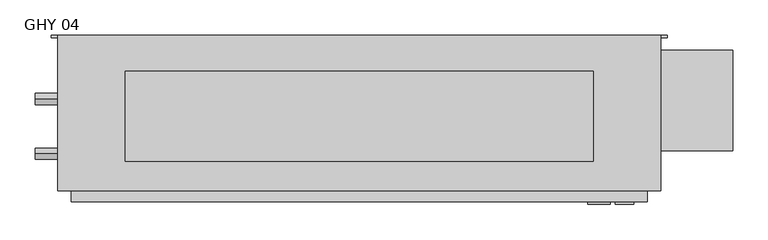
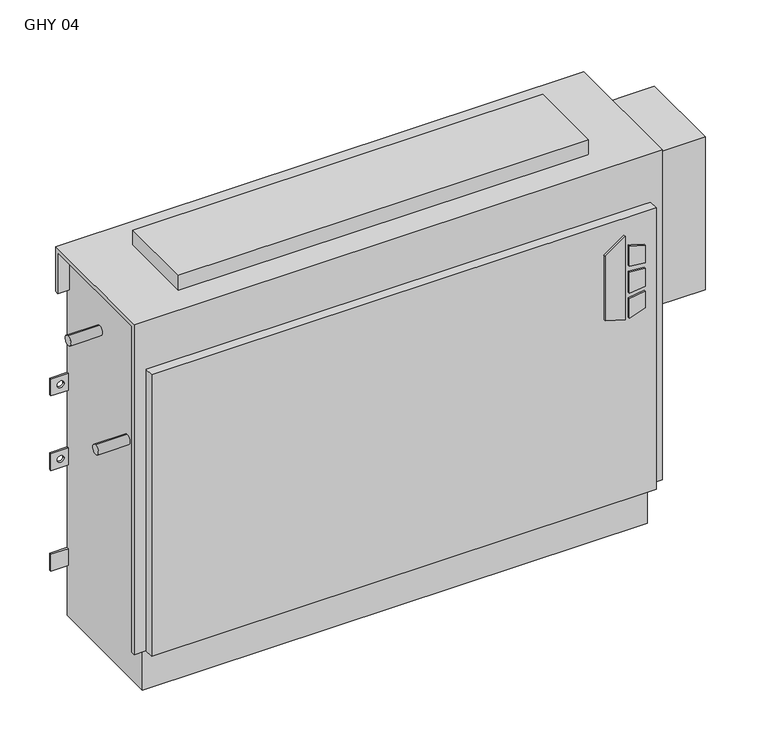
"""IFC4 building model written with IfcOpenShell, lengths in millimetres: proxy geometry, Vertical_Fan_Coil_Unit_-_GHY_-_IEC_-_2-Pipe_TS-FR_LH_2022 : GHY 04."""

from ifc_helpers import new_model, si_unit, point, frame, frame_2d, origin, place, context, project, spatial, polyline, circle_curve, trimmed, segment, composite_curve, outline, extrude, source, transform, mapped, element, save
from ifc_brep_helpers import plane_surface, revolved_surface, advanced_brep


def ghy_04_74227bf3(model_context):
    return source(origin(), model_context, "Body", "SolidModel", [
        extrude(outline(polyline([(391.6086829, 474.7368862), (381.6606126, 506.9102728), (523.831537, 506.9102728), (500.8095309, 474.7368862), (391.6086829, 474.7368862)])), frame((0.0, 6.35, 0.0), z_axis=(0.0, 1.0, 0.0), x_axis=(0.0, 0.0, 1.0)), (0.0, 0.0, 1.0), 3.175),
        extrude(outline(polyline([(470.6079683, 513.6686058), (467.4055757, 539.75), (496.6344168, 539.75), (504.6988318, 513.6686058), (470.6079683, 513.6686058)])), frame((0.0, 6.35, 0.0), z_axis=(0.0, 1.0, 0.0), x_axis=(0.0, 0.0, 1.0)), (0.0, 0.0, 1.0), 3.175),
        extrude(outline(polyline([(418.7444414, 539.75), (415.0789404, 513.6686058), (381.6606126, 513.6686058), (390.2948498, 539.75), (418.7444414, 539.75)])), frame((0.0, 6.35, 0.0), z_axis=(0.0, 1.0, 0.0), x_axis=(0.0, 0.0, 1.0)), (0.0, 0.0, 1.0), 3.175),
        extrude(outline(polyline([(458.0596028, 539.75), (460.3414292, 513.6686058), (424.4038806, 513.6686058), (427.1451456, 539.75), (458.0596028, 539.75)])), frame((0.0, 6.35, 0.0), z_axis=(0.0, 1.0, 0.0), x_axis=(0.0, 0.0, 1.0)), (0.0, 0.0, 1.0), 3.175),
        extrude(outline(polyline([(482.6, 193.675), (482.6, 66.675), (-177.8, 66.675), (-177.8, 193.675), (482.6, 193.675)])), frame((0.0, 0.0, 635.0), z_axis=(0.0, 0.0, 1.0), x_axis=(1.0, 0.0, 0.0)), (0.0, 0.0, 1.0), 25.4),
        extrude(outline(composite_curve([segment(trimmed(circle_curve(frame_2d((77.597, 401.574)), 7.9375), [point((77.597, 409.5115))], [point((77.597, 393.6365))], False, "CARTESIAN"), True, "CONTINUOUS"), segment(trimmed(circle_curve(frame_2d((77.597, 401.574)), 7.9375), [point((77.597, 393.6365))], [point((77.597, 409.5115))], False, "CARTESIAN"), True, "CONTINUOUS")], self_intersect=False)), frame((-304.8, 0.0, 0.0), z_axis=(1.0, 0.0, 0.0), x_axis=(0.0, 1.0, 0.0)), (0.0, 0.0, 1.0), 50.8),
        extrude(outline(composite_curve([segment(trimmed(circle_curve(frame_2d((154.559, 540.512)), 7.9375), [point((154.559, 548.4495))], [point((154.559, 532.5745))], False, "CARTESIAN"), True, "CONTINUOUS"), segment(trimmed(circle_curve(frame_2d((154.559, 540.512)), 7.9375), [point((154.559, 532.5745))], [point((154.559, 548.4495))], False, "CARTESIAN"), True, "CONTINUOUS")], self_intersect=False)), frame((-304.8, 0.0, 0.0), z_axis=(1.0, 0.0, 0.0), x_axis=(0.0, 1.0, 0.0)), (0.0, 0.0, 1.0), 50.8),
        extrude(outline(polyline([(679.45, 223.266), (679.45, 81.534), (558.8, 81.534), (558.8, 223.266), (679.45, 223.266)])), frame((0.0, 0.0, 327.025), z_axis=(0.0, 0.0, 1.0), x_axis=(1.0, 0.0, 0.0)), (0.0, 0.0, 1.0), 260.35),
        advanced_brep(
        [(577.85, 244.475, 635.0), (-273.05, 244.475, 635.0), (-273.05, 25.4, 635.0), (577.85, 25.4, 635.0), (-254.0, 244.475, 0.0), (558.8, 244.475, 0.0), (558.8, 34.925, 0.0), (-254.0, 34.925, 0.0), (577.85, 244.475, 558.8), (558.8, 244.475, 558.8), (558.8, 244.475, 414.3375), (587.375, 244.475, 414.3375), (587.375, 244.475, 385.7625), (558.8, 244.475, 385.7625), (558.8, 244.475, 287.3375), (587.375, 244.475, 287.3375), (587.375, 244.475, 258.7625), (558.8, 244.475, 258.7625), (558.8, 244.475, 141.2875), (587.375, 244.475, 141.2875), (587.375, 244.475, 112.7125), (558.8, 244.475, 112.7125), (-254.0, 244.475, 87.3125), (-282.575, 244.475, 87.3125), (-282.575, 244.475, 115.8875), (-254.0, 244.475, 115.8875), (-254.0, 244.475, 258.7625), (-282.575, 244.475, 258.7625), (-282.575, 244.475, 287.3375), (-254.0, 244.475, 287.3375), (-254.0, 244.475, 385.7625), (-282.575, 244.475, 385.7625), (-282.575, 244.475, 414.3375), (-254.0, 244.475, 414.3375), (-254.0, 244.475, 558.8), (-273.05, 244.475, 558.8), (577.0626, 244.475, 127.0), (565.9374, 244.475, 127.0), (577.0626, 244.475, 273.05), (565.9374, 244.475, 273.05), (-261.1374, 244.475, 273.05), (-272.2626, 244.475, 273.05), (577.0626, 244.475, 400.05), (565.9374, 244.475, 400.05), (-261.1374, 244.475, 400.05), (-272.2626, 244.475, 400.05), (-273.05, 238.125, 558.8), (-273.05, 238.125, 628.65), (-273.05, 31.75, 628.65), (-273.05, 31.75, 73.025), (-273.05, 25.4, 73.025), (558.8, 9.525, 552.45), (-254.0, 9.525, 552.45), (-254.0, 9.525, 73.025), (558.8, 9.525, 73.025), (577.85, 25.4, 73.025), (577.85, 31.75, 73.025), (577.85, 31.75, 628.65), (577.85, 238.125, 628.65), (577.85, 238.125, 558.8), (-254.0, 25.4, 73.025), (-254.0, 25.4, 552.45), (558.8, 25.4, 552.45), (558.8, 25.4, 73.025), (-254.0, 31.75, 73.025), (-254.0, 34.925, 73.025), (558.8, 34.925, 73.025), (558.8, 31.75, 73.025), (558.8, 241.3, 112.7125), (558.8, 241.3, 141.2875), (558.8, 241.3, 258.7625), (558.8, 241.3, 287.3375), (558.8, 241.3, 385.7625), (558.8, 241.3, 414.3375), (558.8, 238.125, 558.8), (558.8, 238.125, 628.65), (558.8, 31.75, 628.65), (-254.0, 31.75, 628.65), (-254.0, 238.125, 628.65), (-254.0, 238.125, 558.8), (-254.0, 241.3, 414.3375), (-254.0, 241.3, 385.7625), (-254.0, 241.3, 287.3375), (-254.0, 241.3, 258.7625), (-254.0, 241.3, 115.8875), (-254.0, 241.3, 87.3125), (587.375, 241.3, 112.7125), (587.375, 241.3, 141.2875), (565.9374, 241.3, 127.0), (577.0626, 241.3, 127.0), (587.375, 241.3, 258.7625), (587.375, 241.3, 287.3375), (565.9374, 241.3, 273.05), (577.0626, 241.3, 273.05), (587.375, 241.3, 385.7625), (587.375, 241.3, 414.3375), (565.9374, 241.3, 400.05), (577.0626, 241.3, 400.05), (-282.575, 241.3, 115.8875), (-282.575, 241.3, 87.3125), (-282.575, 241.3, 287.3375), (-282.575, 241.3, 258.7625), (-272.2626, 241.3, 273.05), (-261.1374, 241.3, 273.05), (-282.575, 241.3, 414.3375), (-282.575, 241.3, 385.7625), (-272.2626, 241.3, 400.05), (-261.1374, 241.3, 400.05)],
        [
            (0, 1),
            (1, 2),
            (2, 3),
            (3, 0),
            (4, 5),
            (5, 6),
            (6, 7),
            (7, 4),
            (0, 8),
            (8, 9),
            (9, 10),
            (10, 11),
            (11, 12),
            (12, 13),
            (13, 14),
            (14, 15),
            (15, 16),
            (16, 17),
            (17, 18),
            (18, 19),
            (19, 20),
            (20, 21),
            (21, 5),
            (4, 22),
            (22, 23),
            (23, 24),
            (24, 25),
            (25, 26),
            (26, 27),
            (27, 28),
            (28, 29),
            (29, 30),
            (30, 31),
            (31, 32),
            (32, 33),
            (33, 34),
            (34, 35),
            (35, 1),
            (36, 37, circle_curve(frame((571.5, 244.475, 127.0), z_axis=(0.0, -1.0, 0.0), x_axis=(-1.0, 0.0, 0.0)), 5.5626)),
            (37, 36, circle_curve(frame((571.5, 244.475, 127.0), z_axis=(0.0, -1.0, 0.0), x_axis=(-1.0, 0.0, 0.0)), 5.5626)),
            (38, 39, circle_curve(frame((571.5, 244.475, 273.05), z_axis=(0.0, -1.0, 0.0), x_axis=(-1.0, 0.0, 0.0)), 5.5626)),
            (39, 38, circle_curve(frame((571.5, 244.475, 273.05), z_axis=(0.0, -1.0, 0.0), x_axis=(-1.0, 0.0, 0.0)), 5.5626)),
            (40, 41, circle_curve(frame((-266.7, 244.475, 273.05), z_axis=(0.0, -1.0, 0.0), x_axis=(-1.0, 0.0, 0.0)), 5.5626)),
            (41, 40, circle_curve(frame((-266.7, 244.475, 273.05), z_axis=(0.0, -1.0, 0.0), x_axis=(-1.0, 0.0, 0.0)), 5.5626)),
            (42, 43, circle_curve(frame((571.5, 244.475, 400.05), z_axis=(0.0, -1.0, 0.0), x_axis=(-1.0, 0.0, 0.0)), 5.5626)),
            (43, 42, circle_curve(frame((571.5, 244.475, 400.05), z_axis=(0.0, -1.0, 0.0), x_axis=(-1.0, 0.0, 0.0)), 5.5626)),
            (44, 45, circle_curve(frame((-266.7, 244.475, 400.05), z_axis=(0.0, -1.0, 0.0), x_axis=(-1.0, 0.0, 0.0)), 5.5626)),
            (45, 44, circle_curve(frame((-266.7, 244.475, 400.05), z_axis=(0.0, -1.0, 0.0), x_axis=(-1.0, 0.0, 0.0)), 5.5626)),
            (35, 46),
            (46, 47),
            (47, 48),
            (48, 49),
            (49, 50),
            (50, 2),
            (51, 52),
            (52, 53),
            (53, 54),
            (54, 51),
            (3, 55),
            (55, 56),
            (56, 57),
            (57, 58),
            (58, 59),
            (59, 8),
            (50, 60),
            (60, 61),
            (61, 62),
            (62, 63),
            (63, 55),
            (51, 62),
            (61, 52),
            (53, 60),
            (49, 64),
            (64, 65),
            (65, 66),
            (66, 67),
            (67, 56),
            (63, 54),
            (6, 66),
            (65, 7),
            (21, 68),
            (68, 69),
            (69, 18),
            (17, 70),
            (70, 71),
            (71, 14),
            (13, 72),
            (72, 73),
            (73, 10),
            (9, 74),
            (74, 75),
            (75, 76),
            (76, 67),
            (64, 77),
            (77, 78),
            (78, 79),
            (79, 34),
            (33, 80),
            (80, 81),
            (81, 30),
            (29, 82),
            (82, 83),
            (83, 26),
            (25, 84),
            (84, 85),
            (85, 22),
            (74, 59),
            (58, 75),
            (76, 57),
            (48, 77),
            (79, 46),
            (78, 47),
            (68, 86),
            (86, 87),
            (87, 69),
            (88, 89, circle_curve(frame((571.5, 241.3, 127.0), z_axis=(0.0, 1.0, 0.0), x_axis=(-1.0, 0.0, 0.0)), 5.5626)),
            (89, 88, circle_curve(frame((571.5, 241.3, 127.0), z_axis=(0.0, 1.0, 0.0), x_axis=(-1.0, 0.0, 0.0)), 5.5626)),
            (90, 91),
            (91, 71),
            (70, 90),
            (92, 93, circle_curve(frame((571.5, 241.3, 273.05), z_axis=(0.0, 1.0, 0.0), x_axis=(-1.0, 0.0, 0.0)), 5.5626)),
            (93, 92, circle_curve(frame((571.5, 241.3, 273.05), z_axis=(0.0, 1.0, 0.0), x_axis=(-1.0, 0.0, 0.0)), 5.5626)),
            (94, 95),
            (95, 73),
            (72, 94),
            (96, 97, circle_curve(frame((571.5, 241.3, 400.05), z_axis=(0.0, 1.0, 0.0), x_axis=(-1.0, 0.0, 0.0)), 5.5626)),
            (97, 96, circle_curve(frame((571.5, 241.3, 400.05), z_axis=(0.0, 1.0, 0.0), x_axis=(-1.0, 0.0, 0.0)), 5.5626)),
            (98, 99),
            (99, 85),
            (84, 98),
            (82, 100),
            (100, 101),
            (101, 83),
            (102, 103, circle_curve(frame((-266.7, 241.3, 273.05), z_axis=(0.0, 1.0, 0.0), x_axis=(-1.0, 0.0, 0.0)), 5.5626)),
            (103, 102, circle_curve(frame((-266.7, 241.3, 273.05), z_axis=(0.0, 1.0, 0.0), x_axis=(-1.0, 0.0, 0.0)), 5.5626)),
            (104, 105),
            (105, 81),
            (80, 104),
            (106, 107, circle_curve(frame((-266.7, 241.3, 400.05), z_axis=(0.0, 1.0, 0.0), x_axis=(-1.0, 0.0, 0.0)), 5.5626)),
            (107, 106, circle_curve(frame((-266.7, 241.3, 400.05), z_axis=(0.0, 1.0, 0.0), x_axis=(-1.0, 0.0, 0.0)), 5.5626)),
            (87, 19),
            (86, 20),
            (16, 90),
            (91, 15),
            (12, 94),
            (95, 11),
            (24, 98),
            (99, 23),
            (101, 27),
            (100, 28),
            (32, 104),
            (105, 31),
            (88, 37),
            (36, 89),
            (92, 39),
            (38, 93),
            (102, 41),
            (40, 103),
            (96, 43),
            (42, 97),
            (106, 45),
            (44, 107),
        ],
        [
            plane_surface(frame((-273.05, 244.475, 635.0), z_axis=(0.0, 0.0, 1.0), x_axis=(-1.0, 0.0, 0.0))),
            plane_surface(frame((-273.05, 244.475, 0.0), z_axis=(0.0, 0.0, -1.0), x_axis=(1.0, 0.0, 0.0))),
            plane_surface(frame((577.85, 244.475, 635.0), z_axis=(0.0, 1.0, 0.0), x_axis=(0.0, 0.0, -1.0))),
            plane_surface(frame((-273.05, 244.475, 635.0), z_axis=(-1.0, 0.0, 0.0), x_axis=(0.0, 0.0, -1.0))),
            plane_surface(frame((-273.05, 9.525, 635.0), z_axis=(0.0, -1.0, 0.0), x_axis=(0.0, 0.0, -1.0))),
            plane_surface(frame((577.85, 9.525, 635.0), z_axis=(1.0, 0.0, 0.0), x_axis=(0.0, 0.0, -1.0))),
            plane_surface(frame((-400.05, 25.4, 635.0), z_axis=(0.0, -1.0, 0.0), x_axis=(1.0, 0.0, 0.0))),
            plane_surface(frame((-400.05, 25.4, 552.45), z_axis=(0.0, 0.0, 1.0), x_axis=(1.0, 0.0, 0.0))),
            plane_surface(frame((-273.05, 9.525, 73.025), z_axis=(0.0, 0.0, -1.0), x_axis=(1.0, 0.0, 0.0))),
            plane_surface(frame((-273.05, 34.925, 73.025), z_axis=(0.0, -1.0, 0.0), x_axis=(1.0, 0.0, 0.0))),
            plane_surface(frame((558.8, 25.4, 73.025), z_axis=(1.0, 0.0, 0.0), x_axis=(0.0, -1.0, 0.0))),
            plane_surface(frame((-254.0, 25.4, 552.45), z_axis=(-1.0, 0.0, 0.0), x_axis=(0.0, -1.0, 0.0))),
            plane_surface(frame((558.8, 244.475, 0.0), z_axis=(1.0, 0.0, 0.0), x_axis=(0.0, -1.0, 0.0))),
            plane_surface(frame((-254.0, 244.475, 73.025), z_axis=(-1.0, 0.0, 0.0), x_axis=(0.0, -1.0, 0.0))),
            plane_surface(frame((558.8, 238.125, 628.65), z_axis=(0.0, -1.0, 0.0), x_axis=(1.0, 0.0, 0.0))),
            plane_surface(frame((558.8, 238.125, 558.8), z_axis=(0.0, 0.0, -1.0), x_axis=(1.0, 0.0, 0.0))),
            plane_surface(frame((558.8, 31.75, 73.025), z_axis=(0.0, 1.0, 0.0), x_axis=(1.0, 0.0, 0.0))),
            plane_surface(frame((558.8, 31.75, 628.65), z_axis=(0.0, 0.0, -1.0), x_axis=(1.0, 0.0, 0.0))),
            plane_surface(frame((-254.0, 31.75, 628.65), z_axis=(0.0, 1.0, 0.0), x_axis=(-1.0, 0.0, 0.0))),
            plane_surface(frame((-254.0, 244.475, 558.8), z_axis=(0.0, 0.0, -1.0), x_axis=(-1.0, 0.0, 0.0))),
            plane_surface(frame((-254.0, 238.125, 558.8), z_axis=(0.0, -1.0, 0.0), x_axis=(-1.0, 0.0, 0.0))),
            plane_surface(frame((-254.0, 238.125, 628.65), z_axis=(0.0, 0.0, -1.0), x_axis=(-1.0, 0.0, 0.0))),
            plane_surface(frame((587.375, 241.3, 141.2875), z_axis=(0.0, -1.0, 0.0), x_axis=(-1.0, 0.0, 0.0))),
            plane_surface(frame((558.8, 244.475, 141.2875), z_axis=(0.0, 0.0, 1.0), x_axis=(0.0, -1.0, 0.0))),
            plane_surface(frame((587.375, 244.475, 141.2875), z_axis=(1.0, 0.0, 0.0), x_axis=(0.0, -1.0, 0.0))),
            plane_surface(frame((587.375, 244.475, 112.7125), z_axis=(0.0, 0.0, -1.0), x_axis=(0.0, -1.0, 0.0))),
            plane_surface(frame((587.375, 244.475, 258.7625), z_axis=(0.0, 0.0, -1.0), x_axis=(0.0, -1.0, 0.0))),
            plane_surface(frame((558.8, 244.475, 287.3375), z_axis=(0.0, 0.0, 1.0), x_axis=(0.0, -1.0, 0.0))),
            plane_surface(frame((587.375, 244.475, 287.3375), z_axis=(1.0, 0.0, 0.0), x_axis=(0.0, -1.0, 0.0))),
            plane_surface(frame((587.375, 244.475, 385.7625), z_axis=(0.0, 0.0, -1.0), x_axis=(0.0, -1.0, 0.0))),
            plane_surface(frame((558.8, 244.475, 414.3375), z_axis=(0.0, 0.0, 1.0), x_axis=(0.0, -1.0, 0.0))),
            plane_surface(frame((587.375, 244.475, 414.3375), z_axis=(1.0, 0.0, 0.0), x_axis=(0.0, -1.0, 0.0))),
            plane_surface(frame((-282.575, 244.475, 115.8875), z_axis=(0.0, 0.0, 1.0), x_axis=(0.0, -1.0, 0.0))),
            plane_surface(frame((-254.0, 244.475, 87.3125), z_axis=(0.0, 0.0, -1.0), x_axis=(0.0, -1.0, 0.0))),
            plane_surface(frame((-282.575, 244.475, 87.3125), z_axis=(-1.0, 0.0, 0.0), x_axis=(0.0, -1.0, 0.0))),
            plane_surface(frame((-254.0, 244.475, 258.7625), z_axis=(0.0, 0.0, -1.0), x_axis=(0.0, -1.0, 0.0))),
            plane_surface(frame((-282.575, 244.475, 258.7625), z_axis=(-1.0, 0.0, 0.0), x_axis=(0.0, -1.0, 0.0))),
            plane_surface(frame((-282.575, 244.475, 287.3375), z_axis=(0.0, 0.0, 1.0), x_axis=(0.0, -1.0, 0.0))),
            plane_surface(frame((-282.575, 244.475, 414.3375), z_axis=(0.0, 0.0, 1.0), x_axis=(0.0, -1.0, 0.0))),
            plane_surface(frame((-254.0, 244.475, 385.7625), z_axis=(0.0, 0.0, -1.0), x_axis=(0.0, -1.0, 0.0))),
            plane_surface(frame((-282.575, 244.475, 385.7625), z_axis=(-1.0, 0.0, 0.0), x_axis=(0.0, -1.0, 0.0))),
            revolved_surface(polyline([(565.9374, 241.3, 127.0), (565.9374, 244.475, 127.0)]), (571.5, 244.475, 127.0), (0.0, -1.0, 0.0)),
            revolved_surface(polyline([(565.9374, 241.3, 273.05), (565.9374, 244.475, 273.05)]), (571.5, 244.475, 273.05), (0.0, -1.0, 0.0)),
            revolved_surface(polyline([(-272.26259999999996, 241.3, 273.05), (-272.26259999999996, 244.475, 273.05)]), (-266.7, 244.475, 273.05), (0.0, -1.0, 0.0)),
            revolved_surface(polyline([(565.9374, 241.3, 400.05), (565.9374, 244.475, 400.05)]), (571.5, 244.475, 400.05), (0.0, -1.0, 0.0)),
            revolved_surface(polyline([(-272.26259999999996, 241.3, 400.05), (-272.26259999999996, 244.475, 400.05)]), (-266.7, 244.475, 400.05), (0.0, -1.0, 0.0)),
        ],
        [
            (0, [[1, 2, 3, 4]]),
            (1, [[5, 6, 7, 8]]),
            (2, [[-1, 9, 10, 11, 12, 13, 14, 15, 16, 17, 18, 19, 20, 21, 22, 23, -5, 24, 25, 26, 27, 28, 29, 30, 31, 32, 33, 34, 35, 36, 37, 38], [39, 40], [41, 42], [43, 44], [45, 46], [47, 48]]),
            (3, [[-2, -38, 49, 50, 51, 52, 53, 54]]),
            (4, [[55, 56, 57, 58]]),
            (5, [[-4, 59, 60, 61, 62, 63, 64, -9]]),
            (6, [[-3, -54, 65, 66, 67, 68, 69, -59]]),
            (7, [[-55, 70, -67, 71]]),
            (8, [[-57, 72, -65, -53, 73, 74, 75, 76, 77, -60, -69, 78]]),
            (9, [[-7, 79, -75, 80]]),
            (10, [[-68, -70, -58, -78]]),
            (11, [[-66, -72, -56, -71]]),
            (12, [[-6, -23, 81, 82, 83, -19, 84, 85, 86, -15, 87, 88, 89, -11, 90, 91, 92, 93, -76, -79]]),
            (13, [[-8, -80, -74, 94, 95, 96, 97, -36, 98, 99, 100, -32, 101, 102, 103, -28, 104, 105, 106, -24]]),
            (14, [[-91, 107, -63, 108]]),
            (15, [[-90, -10, -64, -107]]),
            (16, [[-93, 109, -61, -77]]),
            (17, [[-92, -108, -62, -109]]),
            (18, [[-94, -73, -52, 110]]),
            (19, [[-97, 111, -49, -37]]),
            (20, [[-96, 112, -50, -111]]),
            (21, [[-95, -110, -51, -112]]),
            (22, [[113, 114, 115, -82], [116, 117]]),
            (22, [[118, 119, -85, 120], [121, 122]]),
            (22, [[123, 124, -88, 125], [126, 127]]),
            (22, [[128, 129, -105, 130]]),
            (22, [[131, 132, 133, -102], [134, 135]]),
            (22, [[136, 137, -99, 138], [139, 140]]),
            (23, [[-115, 141, -20, -83]]),
            (24, [[-114, 142, -21, -141]]),
            (25, [[-113, -81, -22, -142]]),
            (26, [[-120, -84, -18, 143]]),
            (27, [[-119, 144, -16, -86]]),
            (28, [[-118, -143, -17, -144]]),
            (29, [[-125, -87, -14, 145]]),
            (30, [[-124, 146, -12, -89]]),
            (31, [[-123, -145, -13, -146]]),
            (32, [[-130, -104, -27, 147]]),
            (33, [[-129, 148, -25, -106]]),
            (34, [[-128, -147, -26, -148]]),
            (35, [[-133, 149, -29, -103]]),
            (36, [[-132, 150, -30, -149]]),
            (37, [[-131, -101, -31, -150]]),
            (38, [[-138, -98, -35, 151]]),
            (39, [[-137, 152, -33, -100]]),
            (40, [[-136, -151, -34, -152]]),
            (41, [[153, -39, 154, -116]]),
            (41, [[-153, -117, -154, -40]]),
            (42, [[155, -41, 156, -121]]),
            (42, [[-155, -122, -156, -42]]),
            (43, [[157, -43, 158, -134]]),
            (43, [[-157, -135, -158, -44]]),
            (44, [[159, -45, 160, -126]]),
            (44, [[-159, -127, -160, -46]]),
            (45, [[161, -47, 162, -139]]),
            (45, [[-161, -140, -162, -48]]),
        ],
    ),
    ])


if __name__ == "__main__":
    model = new_model("IFC4")
    model_context = context("Model", 3, world=origin())
    ifc_project = project(units=[si_unit("LENGTHUNIT", "METRE", prefix="MILLI")], contexts=[model_context])
    site = spatial("IfcSite", under=ifc_project)
    building = spatial("IfcBuilding", under=site)
    placement = place(None, origin())
    ghy_04_shape = ghy_04_74227bf3(model_context)
    element("IfcBuildingElementProxy", 1, Name="Vertical_Fan_Coil_Unit_-_GHY_-_IEC_-_2-Pipe_TS-FR_LH_2022 : GHY 04", ObjectType="Vertical_Fan_Coil_Unit_-_GHY_-_IEC_-_2-Pipe_TS-FR_LH_2022 : GHY 04", at=placement, inside=building, context=model_context, shape_type="MappedRepresentation", body=[
        mapped(ghy_04_shape, transform((0.0, 0.0, 0.0), x_axis=(1.0, 0.0, 0.0), y_axis=(0.0, 1.0, 0.0), z_axis=(0.0, 0.0, 1.0))),
    ])
    save(model, "model.ifc")
